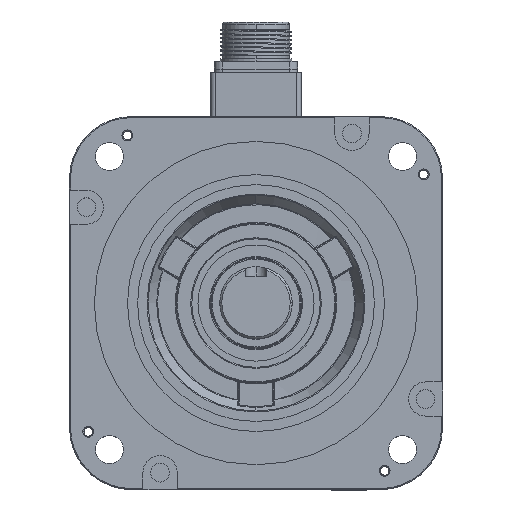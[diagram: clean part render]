
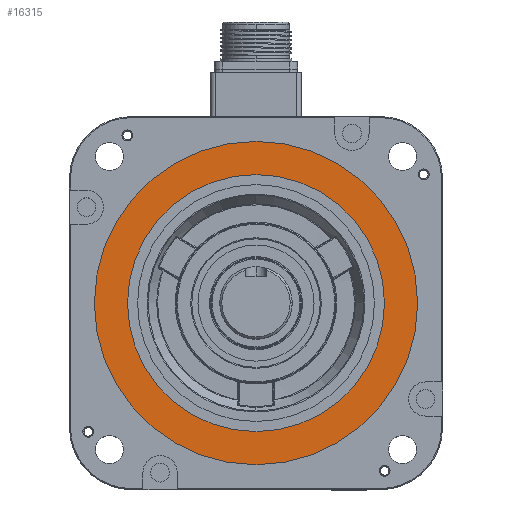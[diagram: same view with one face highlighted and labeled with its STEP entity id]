
A CAD part, top view. The second image highlights one B-rep face of the part: STEP entity #16315.
In plain terms, the highlighted planar face has unit normal (0, 0, -1).
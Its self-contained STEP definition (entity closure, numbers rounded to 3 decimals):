
#361 = DIRECTION ( 'NONE',  ( 0., 0., -1. ) ) ;
#1860 = DIRECTION ( 'NONE',  ( 1., 0., 0. ) ) ;
#3820 = DIRECTION ( 'NONE',  ( 0., 0., 1. ) ) ;
#4117 = CIRCLE ( 'NONE', #19432, 78. ) ;
#6034 = AXIS2_PLACEMENT_3D ( 'NONE', #10595, #3820, #27873 ) ;
#6233 = CARTESIAN_POINT ( 'NONE',  ( 36.315, 219.183, 90.807 ) ) ;
#7869 = CARTESIAN_POINT ( 'NONE',  ( -25.685, 219.183, 90.807 ) ) ;
#9681 = DIRECTION ( 'NONE',  ( 1., 0., 0. ) ) ;
#10595 = CARTESIAN_POINT ( 'NONE',  ( 36.315, 219.183, 90.807 ) ) ;
#13591 = CARTESIAN_POINT ( 'NONE',  ( 36.315, 219.183, 90.807 ) ) ;
#15586 = CARTESIAN_POINT ( 'NONE',  ( -41.685, 219.183, 90.807 ) ) ;
#16283 = EDGE_CURVE ( 'NONE', #25901, #36687, #38736, .T. ) ;
#16315 = ADVANCED_FACE ( 'NONE', ( #20497, #29609 ), #17515, .F. ) ;
#17056 = DIRECTION ( 'NONE',  ( 1., 0., 0. ) ) ;
#17471 = CIRCLE ( 'NONE', #18300, 78. ) ;
#17515 = PLANE ( 'NONE',  #6034 ) ;
#18300 = AXIS2_PLACEMENT_3D ( 'NONE', #43041, #22468, #1860 ) ;
#19432 = AXIS2_PLACEMENT_3D ( 'NONE', #13591, #37585, #17056 ) ;
#19708 = VERTEX_POINT ( 'NONE', #15586 ) ;
#20301 = EDGE_LOOP ( 'NONE', ( #29949, #33092 ) ) ;
#20497 = FACE_OUTER_BOUND ( 'NONE', #20301, .T. ) ;
#20613 = CARTESIAN_POINT ( 'NONE',  ( 98.315, 219.183, 90.807 ) ) ;
#20954 = CARTESIAN_POINT ( 'NONE',  ( 36.315, 219.183, 90.807 ) ) ;
#22468 = DIRECTION ( 'NONE',  ( 0., 0., 1. ) ) ;
#23085 = CARTESIAN_POINT ( 'NONE',  ( 114.315, 219.183, 90.807 ) ) ;
#24337 = CIRCLE ( 'NONE', #25284, 62. ) ;
#24429 = DIRECTION ( 'NONE',  ( 1., 0., 0. ) ) ;
#25284 = AXIS2_PLACEMENT_3D ( 'NONE', #6233, #30280, #9681 ) ;
#25901 = VERTEX_POINT ( 'NONE', #7869 ) ;
#27873 = DIRECTION ( 'NONE',  ( 1., 0., 0. ) ) ;
#28411 = EDGE_CURVE ( 'NONE', #30634, #19708, #17471, .T. ) ;
#29609 = FACE_BOUND ( 'NONE', #42142, .T. ) ;
#29949 = ORIENTED_EDGE ( 'NONE', *, *, #28411, .F. ) ;
#30280 = DIRECTION ( 'NONE',  ( 0., 0., -1. ) ) ;
#30634 = VERTEX_POINT ( 'NONE', #23085 ) ;
#30661 = EDGE_CURVE ( 'NONE', #36687, #25901, #24337, .T. ) ;
#33092 = ORIENTED_EDGE ( 'NONE', *, *, #37678, .F. ) ;
#34702 = ORIENTED_EDGE ( 'NONE', *, *, #30661, .F. ) ;
#36687 = VERTEX_POINT ( 'NONE', #20613 ) ;
#37585 = DIRECTION ( 'NONE',  ( 0., 0., 1. ) ) ;
#37678 = EDGE_CURVE ( 'NONE', #19708, #30634, #4117, .T. ) ;
#38736 = CIRCLE ( 'NONE', #43775, 62. ) ;
#41870 = ORIENTED_EDGE ( 'NONE', *, *, #16283, .F. ) ;
#42142 = EDGE_LOOP ( 'NONE', ( #34702, #41870 ) ) ;
#43041 = CARTESIAN_POINT ( 'NONE',  ( 36.315, 219.183, 90.807 ) ) ;
#43775 = AXIS2_PLACEMENT_3D ( 'NONE', #20954, #361, #24429 ) ;
